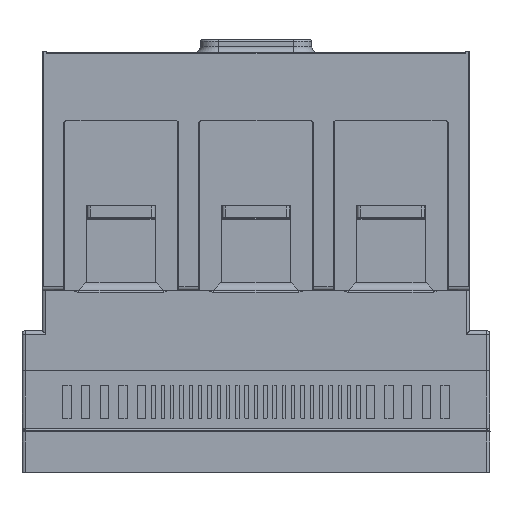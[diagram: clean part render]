
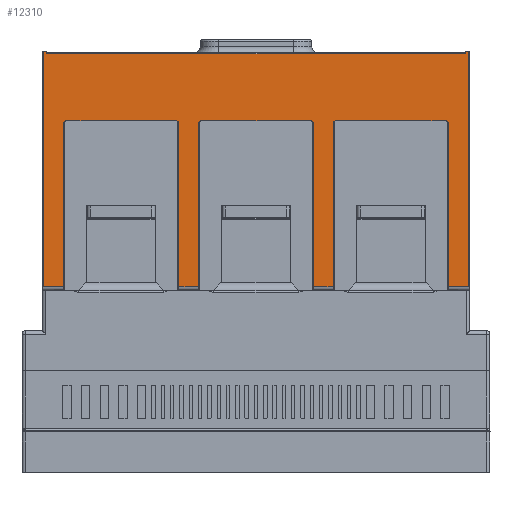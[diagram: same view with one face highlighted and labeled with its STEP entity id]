
A CAD part, front view. The second image highlights one B-rep face of the part: STEP entity #12310.
In plain terms, the highlighted planar face has unit normal (0, -1, 0).
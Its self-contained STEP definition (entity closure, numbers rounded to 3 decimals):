
#6433=CIRCLE('',#123731,2.);
#6434=CIRCLE('',#123734,2.);
#6438=CIRCLE('',#123756,2.);
#6439=CIRCLE('',#123759,2.);
#6493=CIRCLE('',#123848,0.5);
#6497=CIRCLE('',#123864,2.);
#6498=CIRCLE('',#123867,2.);
#6499=CIRCLE('',#123869,0.5);
#12310=ADVANCED_FACE('F304',(#22366),#16431,.T.);
#16431=PLANE('',#123870);
#22366=FACE_OUTER_BOUND('',#29140,.T.);
#29140=EDGE_LOOP('',(#60543,#60544,#60545,#60546,#60547,#60548,#60549,#60550,
#60551,#60552,#60553,#60554,#60555,#60556,#60557,#60558,#60559,#60560,#60561,
#60562,#60563,#60564,#60565,#60566,#60567,#60568,#60569,#60570));
#32280=B_SPLINE_CURVE_WITH_KNOTS('',1,(#192674,#192675),.UNSPECIFIED.,.F.,
 .F.,(2,2),(0.,1.),.UNSPECIFIED.);
#32456=B_SPLINE_CURVE_WITH_KNOTS('',1,(#194496,#194497),.UNSPECIFIED.,.F.,
 .F.,(2,2),(0.,1.),.UNSPECIFIED.);
#32473=B_SPLINE_CURVE_WITH_KNOTS('',1,(#195040,#195041),.UNSPECIFIED.,.F.,
 .F.,(2,2),(0.,1.),.UNSPECIFIED.);
#32479=B_SPLINE_CURVE_WITH_KNOTS('',1,(#195081,#195082),.UNSPECIFIED.,.F.,
 .F.,(2,2),(0.,1.),.UNSPECIFIED.);
#32480=B_SPLINE_CURVE_WITH_KNOTS('',1,(#195089,#195090),.UNSPECIFIED.,.F.,
 .F.,(2,2),(0.,1.),.UNSPECIFIED.);
#32485=B_SPLINE_CURVE_WITH_KNOTS('',1,(#195138,#195139),.UNSPECIFIED.,.F.,
 .F.,(2,2),(0.,1.),.UNSPECIFIED.);
#60543=ORIENTED_EDGE('',*,*,#91228,.T.);
#60544=ORIENTED_EDGE('',*,*,#90988,.T.);
#60545=ORIENTED_EDGE('',*,*,#90993,.T.);
#60546=ORIENTED_EDGE('',*,*,#90996,.T.);
#60547=ORIENTED_EDGE('',*,*,#91004,.T.);
#60548=ORIENTED_EDGE('',*,*,#91008,.T.);
#60549=ORIENTED_EDGE('',*,*,#91011,.T.);
#60550=ORIENTED_EDGE('',*,*,#91015,.T.);
#60551=ORIENTED_EDGE('',*,*,#91019,.T.);
#60552=ORIENTED_EDGE('',*,*,#91050,.T.);
#60553=ORIENTED_EDGE('',*,*,#91053,.T.);
#60554=ORIENTED_EDGE('',*,*,#91059,.T.);
#60555=ORIENTED_EDGE('',*,*,#91062,.T.);
#60556=ORIENTED_EDGE('',*,*,#91067,.T.);
#60557=ORIENTED_EDGE('',*,*,#91071,.T.);
#60558=ORIENTED_EDGE('',*,*,#90623,.T.);
#60559=ORIENTED_EDGE('',*,*,#91229,.T.);
#60560=ORIENTED_EDGE('',*,*,#91230,.T.);
#60561=ORIENTED_EDGE('',*,*,#91125,.T.);
#60562=ORIENTED_EDGE('',*,*,#90617,.T.);
#60563=ORIENTED_EDGE('',*,*,#91191,.T.);
#60564=ORIENTED_EDGE('',*,*,#91192,.T.);
#60565=ORIENTED_EDGE('',*,*,#91197,.T.);
#60566=ORIENTED_EDGE('',*,*,#91208,.T.);
#60567=ORIENTED_EDGE('',*,*,#91212,.T.);
#60568=ORIENTED_EDGE('',*,*,#91215,.T.);
#60569=ORIENTED_EDGE('',*,*,#91223,.T.);
#60570=ORIENTED_EDGE('',*,*,#91225,.T.);
#74962=VERTEX_POINT('',#192647);
#74963=VERTEX_POINT('',#192649);
#74965=VERTEX_POINT('',#192667);
#74968=VERTEX_POINT('',#192673);
#75201=VERTEX_POINT('',#194203);
#75202=VERTEX_POINT('',#194205);
#75204=VERTEX_POINT('',#194213);
#75206=VERTEX_POINT('',#194221);
#75209=VERTEX_POINT('',#194250);
#75210=VERTEX_POINT('',#194256);
#75212=VERTEX_POINT('',#194275);
#75214=VERTEX_POINT('',#194284);
#75216=VERTEX_POINT('',#194291);
#75236=VERTEX_POINT('',#194443);
#75237=VERTEX_POINT('',#194449);
#75239=VERTEX_POINT('',#194457);
#75241=VERTEX_POINT('',#194476);
#75244=VERTEX_POINT('',#194488);
#75277=VERTEX_POINT('',#194734);
#75314=VERTEX_POINT('',#195025);
#75315=VERTEX_POINT('',#195029);
#75318=VERTEX_POINT('',#195039);
#75325=VERTEX_POINT('',#195080);
#75327=VERTEX_POINT('',#195088);
#75329=VERTEX_POINT('',#195097);
#75332=VERTEX_POINT('',#195126);
#75333=VERTEX_POINT('',#195130);
#75335=VERTEX_POINT('',#195140);
#90617=EDGE_CURVE('E640',#74963,#74962,#102511,.T.);
#90623=EDGE_CURVE('E824',#74965,#74968,#32280,.T.);
#90988=EDGE_CURVE('E998',#75202,#75201,#102605,.T.);
#90993=EDGE_CURVE('E621',#75201,#75204,#102608,.T.);
#90996=EDGE_CURVE('E999',#75204,#75206,#102609,.T.);
#91004=EDGE_CURVE('E47',#75206,#75209,#6433,.T.);
#91008=EDGE_CURVE('E979',#75209,#75210,#102617,.T.);
#91011=EDGE_CURVE('E62',#75210,#75212,#6434,.T.);
#91015=EDGE_CURVE('E1000',#75212,#75214,#102619,.T.);
#91019=EDGE_CURVE('E632',#75214,#75216,#102622,.T.);
#91050=EDGE_CURVE('E1001',#75216,#75236,#102626,.T.);
#91053=EDGE_CURVE('E50',#75236,#75237,#6438,.T.);
#91059=EDGE_CURVE('E1002',#75237,#75239,#102634,.T.);
#91062=EDGE_CURVE('E57',#75239,#75241,#6439,.T.);
#91067=EDGE_CURVE('E1003',#75241,#75244,#102636,.T.);
#91071=EDGE_CURVE('E638',#75244,#74965,#32456,.T.);
#91125=EDGE_CURVE('E1005',#75277,#74963,#102659,.T.);
#91191=EDGE_CURVE('E1006',#74962,#75314,#102685,.T.);
#91192=EDGE_CURVE('E902',#75314,#75315,#6493,.T.);
#91197=EDGE_CURVE('E1007',#75315,#75318,#32473,.T.);
#91208=EDGE_CURVE('E819',#75318,#75325,#32479,.T.);
#91212=EDGE_CURVE('E627',#75325,#75327,#32480,.T.);
#91215=EDGE_CURVE('E1008',#75327,#75329,#102690,.T.);
#91223=EDGE_CURVE('E42',#75329,#75332,#6497,.T.);
#91225=EDGE_CURVE('E1009',#75332,#75333,#102696,.T.);
#91228=EDGE_CURVE('E35',#75333,#75202,#6498,.T.);
#91229=EDGE_CURVE('E1004',#74968,#75335,#32485,.T.);
#91230=EDGE_CURVE('E908',#75335,#75277,#6499,.T.);
#102511=LINE('',#192648,#113289);
#102605=LINE('',#194204,#113383);
#102608=LINE('',#194214,#113386);
#102609=LINE('',#194222,#113387);
#102617=LINE('',#194257,#113395);
#102619=LINE('',#194285,#113397);
#102622=LINE('',#194292,#113400);
#102626=LINE('',#194444,#113404);
#102634=LINE('',#194458,#113412);
#102636=LINE('',#194489,#113414);
#102659=LINE('',#194733,#113437);
#102685=LINE('',#195026,#113463);
#102690=LINE('',#195098,#113468);
#102696=LINE('',#195131,#113474);
#113289=VECTOR('',#149699,1.);
#113383=VECTOR('',#150241,1.);
#113386=VECTOR('',#150248,1.);
#113387=VECTOR('',#150251,1.);
#113395=VECTOR('',#150269,1.);
#113397=VECTOR('',#150281,1.);
#113400=VECTOR('',#150288,1.);
#113404=VECTOR('',#150322,1.);
#113412=VECTOR('',#150336,1.);
#113414=VECTOR('',#150348,1.);
#113437=VECTOR('',#150455,1.);
#113463=VECTOR('',#150565,1.);
#113468=VECTOR('',#150598,1.);
#113474=VECTOR('',#150614,1.);
#123731=AXIS2_PLACEMENT_3D('',#194251,#150262,#150263);
#123734=AXIS2_PLACEMENT_3D('',#194276,#150272,#150273);
#123756=AXIS2_PLACEMENT_3D('',#194448,#150327,#150328);
#123759=AXIS2_PLACEMENT_3D('',#194477,#150339,#150340);
#123848=AXIS2_PLACEMENT_3D('',#195028,#150568,#150569);
#123864=AXIS2_PLACEMENT_3D('',#195127,#150609,#150610);
#123867=AXIS2_PLACEMENT_3D('',#195136,#150619,#150620);
#123869=AXIS2_PLACEMENT_3D('',#195141,#150623,#150624);
#123870=AXIS2_PLACEMENT_3D('',#195142,#150625,#150626);
#149699=DIRECTION('',(-1.,0.,0.));
#150241=DIRECTION('',(0.,0.,-1.));
#150248=DIRECTION('',(1.,0.,0.));
#150251=DIRECTION('',(0.,0.,1.));
#150262=DIRECTION('',(0.,1.,0.));
#150263=DIRECTION('',(-1.,0.,0.));
#150269=DIRECTION('',(1.,0.,0.));
#150272=DIRECTION('',(0.,1.,0.));
#150273=DIRECTION('',(-1.,0.,0.));
#150281=DIRECTION('',(0.,0.,-1.));
#150288=DIRECTION('',(1.,0.,0.));
#150322=DIRECTION('',(0.,0.,1.));
#150327=DIRECTION('',(0.,1.,0.));
#150328=DIRECTION('',(0.,0.,1.));
#150336=DIRECTION('',(1.,0.,0.));
#150339=DIRECTION('',(0.,1.,0.));
#150340=DIRECTION('',(-1.,0.,0.));
#150348=DIRECTION('',(0.,0.,-1.));
#150455=DIRECTION('',(0.,0.,-1.));
#150565=DIRECTION('',(0.,0.,1.));
#150568=DIRECTION('',(0.,-1.,0.));
#150569=DIRECTION('',(1.,0.,0.));
#150598=DIRECTION('',(0.,0.,1.));
#150609=DIRECTION('',(0.,1.,0.));
#150610=DIRECTION('',(-1.,0.,0.));
#150614=DIRECTION('',(1.,0.,0.));
#150619=DIRECTION('',(0.,1.,0.));
#150620=DIRECTION('',(0.,0.,1.));
#150623=DIRECTION('',(0.,-1.,0.));
#150624=DIRECTION('',(1.,0.,0.));
#150625=DIRECTION('',(0.,-1.,0.));
#150626=DIRECTION('',(1.,0.,0.));
#192647=CARTESIAN_POINT('',(-123.5,-177.6,-10.3));
#192648=CARTESIAN_POINT('',(0.,-177.6,-10.3));
#192649=CARTESIAN_POINT('',(123.5,-177.6,-10.3));
#192667=CARTESIAN_POINT('',(125.5,-177.6,-147.8));
#192673=CARTESIAN_POINT('',(125.5,-177.6,-8.8));
#192674=CARTESIAN_POINT('',(125.5,-177.6,-147.8));
#192675=CARTESIAN_POINT('',(125.5,-177.6,-8.8));
#194203=CARTESIAN_POINT('',(-45.5,-177.6,-147.8));
#194204=CARTESIAN_POINT('',(-45.5,-177.6,-99.8));
#194205=CARTESIAN_POINT('',(-45.5,-177.6,-51.8));
#194213=CARTESIAN_POINT('',(-34.,-177.6,-147.8));
#194214=CARTESIAN_POINT('',(-39.75,-177.6,-147.8));
#194221=CARTESIAN_POINT('',(-34.,-177.6,-51.8));
#194222=CARTESIAN_POINT('',(-34.,-177.6,-99.8));
#194250=CARTESIAN_POINT('',(-32.,-177.6,-49.8));
#194251=CARTESIAN_POINT('',(-32.,-177.6,-51.8));
#194256=CARTESIAN_POINT('',(32.,-177.6,-49.8));
#194257=CARTESIAN_POINT('',(0.,-177.6,-49.8));
#194275=CARTESIAN_POINT('',(34.,-177.6,-51.8));
#194276=CARTESIAN_POINT('',(32.,-177.6,-51.8));
#194284=CARTESIAN_POINT('',(34.,-177.6,-147.8));
#194285=CARTESIAN_POINT('',(34.,-177.6,-99.8));
#194291=CARTESIAN_POINT('',(45.5,-177.6,-147.8));
#194292=CARTESIAN_POINT('',(39.75,-177.6,-147.8));
#194443=CARTESIAN_POINT('',(45.5,-177.6,-51.8));
#194444=CARTESIAN_POINT('',(45.5,-177.6,-99.8));
#194448=CARTESIAN_POINT('',(47.5,-177.6,-51.8));
#194449=CARTESIAN_POINT('',(47.5,-177.6,-49.8));
#194457=CARTESIAN_POINT('',(111.5,-177.6,-49.8));
#194458=CARTESIAN_POINT('',(79.5,-177.6,-49.8));
#194476=CARTESIAN_POINT('',(113.5,-177.6,-51.8));
#194477=CARTESIAN_POINT('',(111.5,-177.6,-51.8));
#194488=CARTESIAN_POINT('',(113.5,-177.6,-147.8));
#194489=CARTESIAN_POINT('',(113.5,-177.6,-99.8));
#194496=CARTESIAN_POINT('',(113.5,-177.6,-147.8));
#194497=CARTESIAN_POINT('',(125.5,-177.6,-147.8));
#194733=CARTESIAN_POINT('',(123.5,-177.6,-9.8));
#194734=CARTESIAN_POINT('',(123.5,-177.6,-9.3));
#195025=CARTESIAN_POINT('',(-123.5,-177.6,-9.3));
#195026=CARTESIAN_POINT('',(-123.5,-177.6,-9.8));
#195028=CARTESIAN_POINT('',(-124.,-177.6,-9.3));
#195029=CARTESIAN_POINT('',(-124.,-177.6,-8.8));
#195039=CARTESIAN_POINT('',(-125.5,-177.6,-8.8));
#195040=CARTESIAN_POINT('',(-124.,-177.6,-8.8));
#195041=CARTESIAN_POINT('',(-125.5,-177.6,-8.8));
#195080=CARTESIAN_POINT('',(-125.5,-177.6,-147.8));
#195081=CARTESIAN_POINT('',(-125.5,-177.6,-8.8));
#195082=CARTESIAN_POINT('',(-125.5,-177.6,-147.8));
#195088=CARTESIAN_POINT('',(-113.5,-177.6,-147.8));
#195089=CARTESIAN_POINT('',(-125.5,-177.6,-147.8));
#195090=CARTESIAN_POINT('',(-113.5,-177.6,-147.8));
#195097=CARTESIAN_POINT('',(-113.5,-177.6,-51.8));
#195098=CARTESIAN_POINT('',(-113.5,-177.6,-99.8));
#195126=CARTESIAN_POINT('',(-111.5,-177.6,-49.8));
#195127=CARTESIAN_POINT('',(-111.5,-177.6,-51.8));
#195130=CARTESIAN_POINT('',(-47.5,-177.6,-49.8));
#195131=CARTESIAN_POINT('',(-79.5,-177.6,-49.8));
#195136=CARTESIAN_POINT('',(-47.5,-177.6,-51.8));
#195138=CARTESIAN_POINT('',(125.5,-177.6,-8.8));
#195139=CARTESIAN_POINT('',(124.,-177.6,-8.8));
#195140=CARTESIAN_POINT('',(124.,-177.6,-8.8));
#195141=CARTESIAN_POINT('',(124.,-177.6,-9.3));
#195142=CARTESIAN_POINT('',(-132.7,-177.6,-152.6));
